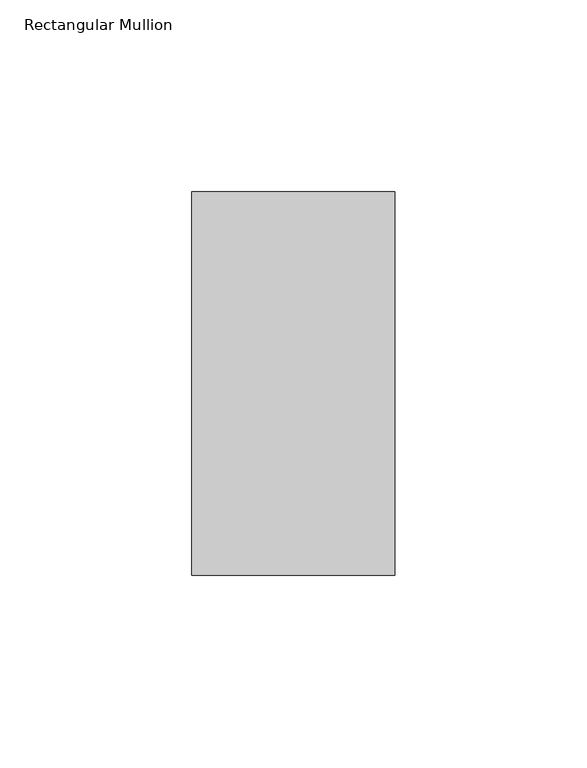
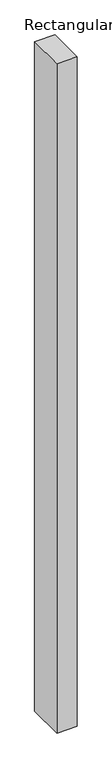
"""IFC4 building model written with IfcOpenShell, lengths in millimetres: member geometry, Rectangular Mullion : IMP219 100mm x 53mm Horizontal."""

from ifc_helpers import new_model, si_unit, frame, origin, place, context, project, spatial, polyline, outline, extrude, source, transform, mapped, element, save


def rectangular_mullion_f097cf33(model_context):
    return source(origin(), model_context, "Body", "SweptSolid", [
        extrude(outline(polyline([(0.0, -50.0), (-53.0, -50.0), (-53.0, 50.0), (0.0, 50.0), (0.0, -50.0)])), frame((0.0, 0.0, -1845.5), z_axis=(0.0, 0.0, 1.0), x_axis=(1.0, 0.0, 0.0)), (0.0, 0.0, 1.0), 1845.5),
    ])


if __name__ == "__main__":
    model = new_model("IFC4")
    model_context = context("Model", 3, world=origin())
    ifc_project = project(units=[si_unit("LENGTHUNIT", "METRE", prefix="MILLI")], contexts=[model_context])
    site = spatial("IfcSite", under=ifc_project)
    building = spatial("IfcBuilding", under=site)
    placement = place(None, origin())
    rectangular_mullion_shape = rectangular_mullion_f097cf33(model_context)
    element("IfcMember", 1, ObjectType="Rectangular Mullion : IMP219 100mm x 53mm Horizontal", at=placement, inside=building, context=model_context, shape_type="MappedRepresentation", body=[
        mapped(rectangular_mullion_shape, transform((0.0, 0.0, 0.0), x_axis=(1.0, 0.0, 0.0), y_axis=(0.0, 1.0, 0.0), z_axis=(0.0, 0.0, 1.0))),
    ])
    save(model, "model.ifc")
